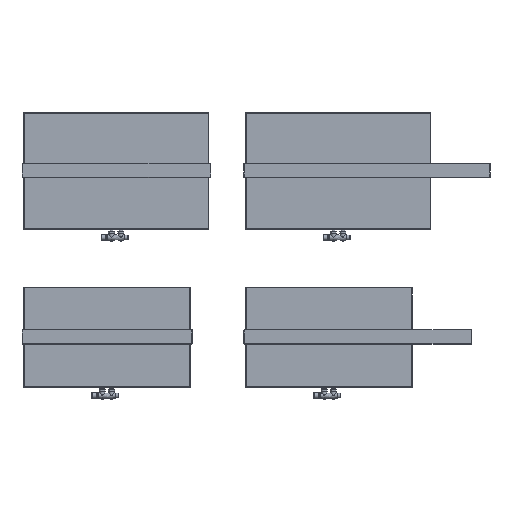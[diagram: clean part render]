
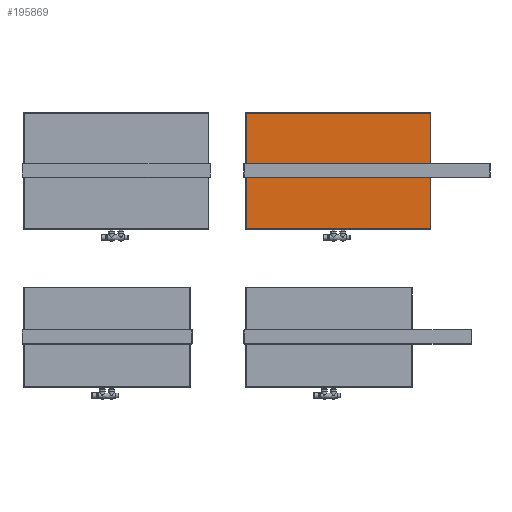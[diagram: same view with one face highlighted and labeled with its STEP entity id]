
A CAD part, front view. The second image highlights one B-rep face of the part: STEP entity #195869.
In plain terms, the highlighted free-form (B-spline) face has degree [1, 1] with [2, 2] control points.
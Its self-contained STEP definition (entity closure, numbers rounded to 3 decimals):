
#195452 = CARTESIAN_POINT ('', (690.291, -59.978, 246.635));
#195453 = VERTEX_POINT ('', #195452);
#195470 = CARTESIAN_POINT ('', (1686.291, -59.978, 246.635));
#195471 = VERTEX_POINT ('', #195470);
#195472 = CARTESIAN_POINT ('', (1686.291, -59.978, 246.635));
#195473 = CARTESIAN_POINT ('', (690.291, -59.978, 246.635));
#195474 = B_SPLINE_CURVE_WITH_KNOTS ('', 1, (#195472, #195473), .UNSPECIFIED., .F., .U., (2, 2), (0., 1.), .UNSPECIFIED.);
#195475 = EDGE_CURVE ('', #195471, #195453, #195474, .T.);
#195536 = CARTESIAN_POINT ('', (690.291, -59.978, -379.365));
#195537 = VERTEX_POINT ('', #195536);
#195554 = CARTESIAN_POINT ('', (690.291, -59.978, 246.635));
#195555 = CARTESIAN_POINT ('', (690.291, -59.978, -379.365));
#195556 = B_SPLINE_CURVE_WITH_KNOTS ('', 1, (#195554, #195555), .UNSPECIFIED., .F., .U., (2, 2), (0., 1.), .UNSPECIFIED.);
#195557 = EDGE_CURVE ('', #195453, #195537, #195556, .T.);
#195573 = CARTESIAN_POINT ('', (1686.291, -59.978, -379.365));
#195574 = VERTEX_POINT ('', #195573);
#195591 = CARTESIAN_POINT ('', (1686.291, -59.978, -379.365));
#195592 = CARTESIAN_POINT ('', (690.291, -59.978, -379.365));
#195593 = B_SPLINE_CURVE_WITH_KNOTS ('', 1, (#195591, #195592), .UNSPECIFIED., .F., .U., (2, 2), (0., 1.), .UNSPECIFIED.);
#195594 = EDGE_CURVE ('', #195574, #195537, #195593, .T.);
#195643 = CARTESIAN_POINT ('', (1686.291, -59.978, -379.365));
#195644 = CARTESIAN_POINT ('', (1686.291, -59.978, 246.635));
#195645 = B_SPLINE_CURVE_WITH_KNOTS ('', 1, (#195643, #195644), .UNSPECIFIED., .F., .U., (2, 2), (0., 1.), .UNSPECIFIED.);
#195646 = EDGE_CURVE ('', #195574, #195471, #195645, .T.);
#195858 = ORIENTED_EDGE ('', *, *, #195646, .T.);
#195859 = ORIENTED_EDGE ('', *, *, #195475, .T.);
#195860 = ORIENTED_EDGE ('', *, *, #195557, .T.);
#195861 = ORIENTED_EDGE ('', *, *, #195594, .F.);
#195862 = EDGE_LOOP ('', (#195858, #195859, #195860, #195861));
#195863 = FACE_OUTER_BOUND ('', #195862, .T.);
#195864 = CARTESIAN_POINT ('', (690.291, -59.978, -379.365));
#195865 = CARTESIAN_POINT ('', (690.291, -59.978, 246.635));
#195866 = CARTESIAN_POINT ('', (1686.291, -59.978, -379.365));
#195867 = CARTESIAN_POINT ('', (1686.291, -59.978, 246.635));
#195868 = B_SPLINE_SURFACE_WITH_KNOTS ('', 1, 1, ((#195864, #195865), (#195866, #195867)), .UNSPECIFIED., .F., .F., .U., (2, 2), (2, 2), (0., 1.), (0., 1.), .UNSPECIFIED.);
#195869 = ADVANCED_FACE ('', (#195863), #195868, .T.);
